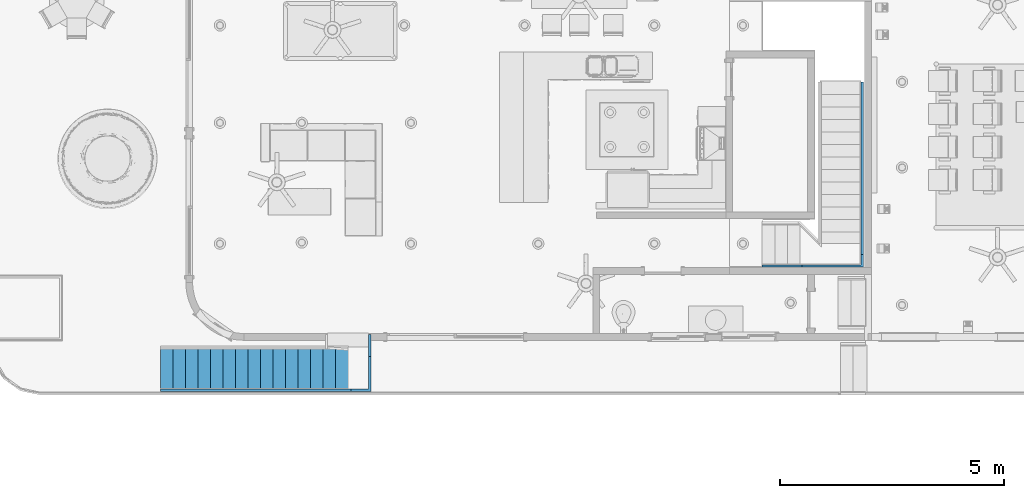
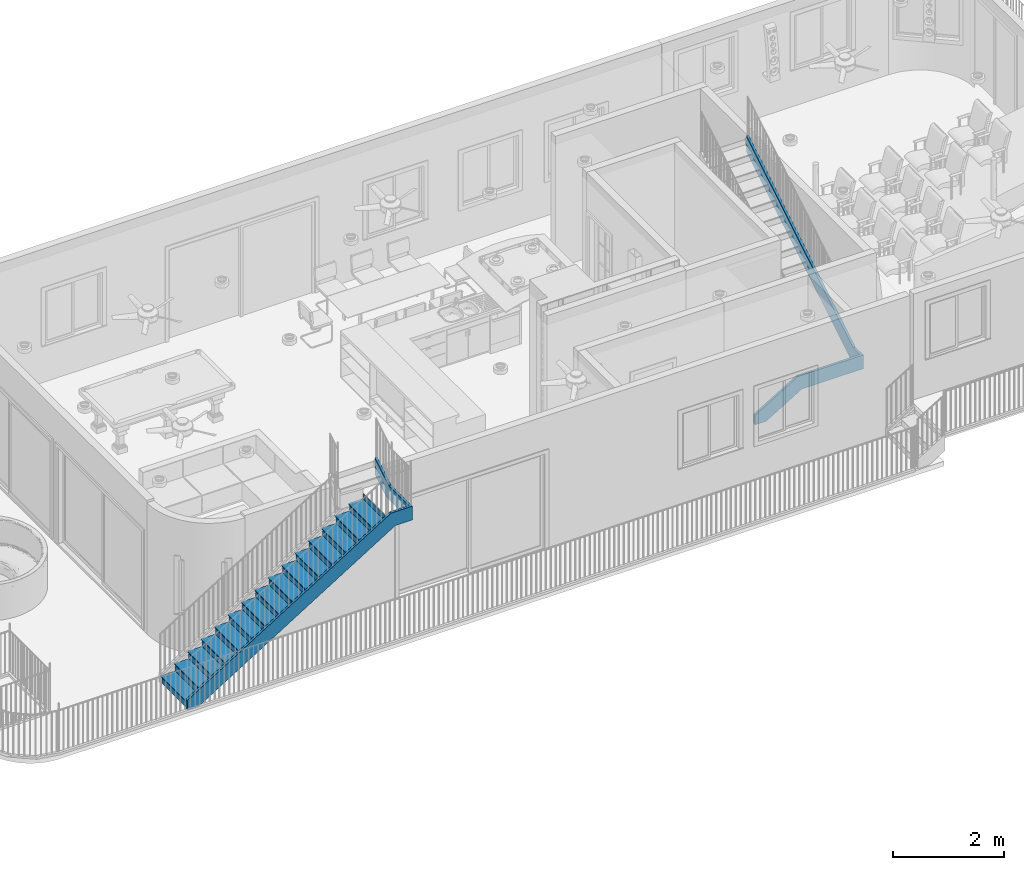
# One storey, part 7 of 21: 2 members, 1 stair flight, 2 elements without a shape of their own.
"""IFC2X3 building model written with IfcOpenShell, lengths in feet."""

from ifc_helpers import new_model, entity, si_unit, converted_unit, derived_unit, direction, origin, place, context, subcontext, project, spatial, faceted_brep, material, element, aggregate, save


model = new_model("IFC2X3")

# Units and contexts
model_context = context("Model", 3, precision=0.0001, world=origin(), true_north=direction((6.12303176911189e-17, 1.0)))
body_context = subcontext(model_context, "Body", "Model", "MODEL_VIEW")
ifc_project = project(units=[converted_unit("LENGTHUNIT", "FOOT", entity("IfcRatioMeasure", 0.3048), si_unit("LENGTHUNIT", "METRE"), dimensions=[1, 0, 0, 0, 0, 0, 0]), converted_unit("AREAUNIT", "SQUARE FOOT", entity("IfcRatioMeasure", 0.09290304), si_unit("AREAUNIT", "SQUARE_METRE"), dimensions=[2, 0, 0, 0, 0, 0, 0]), converted_unit("VOLUMEUNIT", "CUBIC FOOT", entity("IfcRatioMeasure", 0.028316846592), si_unit("VOLUMEUNIT", "CUBIC_METRE"), dimensions=[3, 0, 0, 0, 0, 0, 0]), converted_unit("PLANEANGLEUNIT", "DEGREE", entity("IfcRatioMeasure", 0.0174532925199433), si_unit("PLANEANGLEUNIT", "RADIAN"), dimensions=[0, 0, 0, 0, 0, 0, 0]), si_unit("MASSUNIT", "GRAM", prefix="KILO"), derived_unit("MASSDENSITYUNIT", [(si_unit("MASSUNIT", "GRAM", prefix="KILO"), 1), (si_unit("LENGTHUNIT", "METRE"), -3)]), si_unit("TIMEUNIT", "SECOND"), si_unit("FREQUENCYUNIT", "HERTZ"), si_unit("THERMODYNAMICTEMPERATUREUNIT", "DEGREE_CELSIUS"), derived_unit("THERMALTRANSMITTANCEUNIT", [(si_unit("MASSUNIT", "GRAM", prefix="KILO"), 1), (si_unit("THERMODYNAMICTEMPERATUREUNIT", "KELVIN"), -1), (si_unit("TIMEUNIT", "SECOND"), -3)]), derived_unit("VOLUMETRICFLOWRATEUNIT", [(si_unit("LENGTHUNIT", "METRE"), 3), (si_unit("TIMEUNIT", "SECOND"), -1)]), si_unit("ELECTRICCURRENTUNIT", "AMPERE"), si_unit("ELECTRICVOLTAGEUNIT", "VOLT"), si_unit("POWERUNIT", "WATT"), si_unit("FORCEUNIT", "NEWTON"), si_unit("ILLUMINANCEUNIT", "LUX"), si_unit("LUMINOUSFLUXUNIT", "LUMEN"), si_unit("LUMINOUSINTENSITYUNIT", "CANDELA"), derived_unit("USERDEFINED", [(si_unit("MASSUNIT", "GRAM", prefix="KILO"), -1), (si_unit("LENGTHUNIT", "METRE"), -2), (si_unit("TIMEUNIT", "SECOND"), 3), (si_unit("LUMINOUSFLUXUNIT", "LUMEN"), 1)]), derived_unit("LINEARVELOCITYUNIT", [(si_unit("LENGTHUNIT", "METRE"), 1), (si_unit("TIMEUNIT", "SECOND"), -1)]), si_unit("PRESSUREUNIT", "PASCAL"), derived_unit("USERDEFINED", [(si_unit("LENGTHUNIT", "METRE"), -2), (si_unit("MASSUNIT", "GRAM", prefix="KILO"), 1), (si_unit("TIMEUNIT", "SECOND"), -2)])], contexts=[model_context])

# Site, building, storey
site_placement = place(None, origin())
site = spatial("IfcSite", under=ifc_project, at=site_placement, Name="表面", CompositionType="ELEMENT")
building_placement = place(site_placement, origin())
building = spatial("IfcBuilding", under=site, at=building_placement, CompositionType="ELEMENT")
storey_placement = place(building_placement, origin())
storey = spatial("IfcBuildingStorey", under=building, at=storey_placement, Name="Level 1", CompositionType="ELEMENT", Elevation=0.0)

# Stair, member
stair_1_placement = place(storey_placement, origin())
stair_1 = element("IfcStair", 1, at=stair_1_placement, inside=storey, Name="楼梯:7\" max riser 11\" tread", ObjectType="楼梯:7\" max riser 11\" tread", ShapeType="NOTDEFINED")
ifc_material = material(Name="Metal - Aluminum")
member_1_placement = place(stair_1_placement, origin())
member_1 = element("IfcMember", 2, at=member_1_placement, material=ifc_material, Name="楼梯:7\" max riser 11\" tread:1", ObjectType="楼梯:7\" max riser 11\" tread", context=body_context, shape_type="Brep", body=[
    faceted_brep([(8.21508691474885, -8.04521611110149, 0.695913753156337), (8.21508691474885, -7.87854944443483, 0.695913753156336), (8.21508691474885, -7.87854944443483, 0.0), (8.21508691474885, -8.04521611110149, 0.0), (11.1459958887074, -8.04521611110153, 2.47222222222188), (11.1459958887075, -7.87854944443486, 2.47222222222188), (11.4253740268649, -7.87854944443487, 1.47222222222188), (8.99620736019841, -7.87854944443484, 0.0), (11.4253740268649, -8.04521611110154, 1.47222222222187), (8.99620736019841, -8.0452161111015, 0.0), (15.6317535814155, -8.04521611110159, 2.47222222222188), (15.4650869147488, -7.87854944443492, 2.47222222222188), (15.4650869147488, -7.87854944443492, 1.47222222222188), (15.6317535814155, -8.04521611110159, 1.47222222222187), (15.6317535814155, -7.11430713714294, 2.47222222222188), (15.4650869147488, -7.11430713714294, 2.47222222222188), (15.4650869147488, -6.8349289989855, 1.47222222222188), (15.6317535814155, -6.8349289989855, 1.47222222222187), (15.6317535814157, 5.5381172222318, 10.1403581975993), (15.6317535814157, 5.5381172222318, 8.97103811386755), (15.465086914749, 5.5381172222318, 8.97103811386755), (15.465086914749, 5.5381172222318, 10.1403581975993)], [[[0, 1, 2, 3]], [[1, 0, 4, 5]], [[2, 1, 5, 6, 7]], [[7, 6, 8, 9]], [[0, 3, 9, 8, 4]], [[5, 4, 10, 11]], [[6, 5, 11, 12]], [[8, 6, 12, 13]], [[4, 8, 13, 10]], [[11, 10, 14, 15]], [[12, 11, 15, 16]], [[13, 12, 16, 17]], [[10, 13, 17, 14]], [[18, 19, 20, 21]], [[15, 14, 18, 21]], [[16, 15, 21, 20]], [[17, 16, 20, 19]], [[14, 17, 19, 18]], [[3, 2, 7, 9]]]),
])
aggregate(stair_1, [member_1])

# Stair, member, stair flight
stair_2_placement = place(storey_placement, origin())
stair_2 = element("IfcStair", 3, at=stair_2_placement, inside=storey, Name="楼梯:7\" max riser 11\" tread", ObjectType="楼梯:7\" max riser 11\" tread", ShapeType="NOTDEFINED")
member_2_placement = place(stair_2_placement, origin())
member_2 = element("IfcMember", 4, at=member_2_placement, material=ifc_material, Name="楼梯:7\" max riser 11\" tread:1", ObjectType="楼梯:7\" max riser 11\" tread", context=body_context, shape_type="Brep", body=[
    faceted_brep([(-20.6369576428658, -16.9842729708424, 9.69444444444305), (-20.4702909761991, -17.1509396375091, 9.69444444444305), (-20.4702909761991, -14.605476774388, 9.69444444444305), (-20.6369576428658, -14.605476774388, 9.69444444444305), (-20.6369576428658, -16.9842729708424, 8.69444444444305), (-20.6369576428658, -14.3201564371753, 8.69444444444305), (-20.4702909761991, -17.1509396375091, 8.69444444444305), (-20.4702909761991, -14.3201564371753, 8.69444444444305), (-21.9456614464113, -16.9842729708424, 9.69444444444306), (-21.9456614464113, -17.1509396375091, 9.69444444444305), (-21.6603411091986, -16.9842729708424, 8.69444444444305), (-21.6603411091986, -17.1509396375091, 8.69444444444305), (-35.8869576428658, -17.1509396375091, 1.03394226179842), (-35.8869576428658, -16.9842729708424, 1.03394226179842), (-35.8869576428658, -16.9842729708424, 0.333333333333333), (-35.8869576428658, -17.1509396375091, 0.333333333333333), (-35.1196907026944, -16.9842729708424, 0.333333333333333), (-35.1196907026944, -17.1509396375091, 0.333333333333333), (-20.4702909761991, -12.9634396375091, 10.7144978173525), (-20.4702909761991, -12.9634396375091, 9.53725336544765), (-20.6369576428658, -12.9634396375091, 9.53725336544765), (-20.6369576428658, -12.9634396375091, 10.7144978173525)], [[[0, 1, 2, 3]], [[4, 0, 3, 5]], [[6, 4, 5, 7]], [[1, 6, 7, 2]], [[8, 9, 1, 0]], [[10, 8, 0, 4]], [[11, 10, 4, 6]], [[9, 11, 6, 1]], [[12, 13, 14, 15]], [[13, 12, 9, 8]], [[14, 13, 8, 10, 16]], [[16, 10, 11, 17]], [[12, 15, 17, 11, 9]], [[18, 19, 20, 21]], [[3, 2, 18, 21]], [[5, 3, 21, 20]], [[7, 5, 20, 19]], [[2, 7, 19, 18]], [[15, 14, 16, 17]]]),
])
stair_flight_placement = place(stair_2_placement, origin())
stair_flight = element("IfcStairFlight", 5, at=stair_flight_placement, material=ifc_material, Name="楼梯:7\" max riser 11\" tread:1", ObjectType="楼梯:7\" max riser 11\" tread", NumberOfRiser=16, NumberOfTreads=15, RiserHeight=0.569444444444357, TreadLength=0.916666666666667, context=body_context, shape_type="Brep", body=[
    faceted_brep([(-35.8869576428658, -13.9842729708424, 0.902777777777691), (-35.8869576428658, -16.9842729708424, 0.902777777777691), (-34.8869576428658, -16.9842729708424, 0.90277777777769), (-34.8869576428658, -13.9842729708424, 0.90277777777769), (-35.8036243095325, -13.9842729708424, 0.736111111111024), (-34.8869576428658, -13.9842729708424, 0.736111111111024), (-34.8869576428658, -16.9842729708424, 0.736111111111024), (-35.8036243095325, -16.9842729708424, 0.736111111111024), (-35.8869576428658, -16.9842729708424, 0.84027777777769), (-35.8869576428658, -13.9842729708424, 0.840277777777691), (-35.8036243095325, -16.9842729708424, 0.756944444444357), (-35.8036243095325, -13.9842729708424, 0.756944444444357)], [[[0, 1, 2, 3]], [[4, 5, 6, 7]], [[8, 1, 0, 9]], [[10, 8, 9, 11]], [[0, 3, 5, 4, 11, 9]], [[4, 7, 10, 11]], [[2, 1, 8, 10, 7, 6]], [[3, 2, 6, 5]]]),
    faceted_brep([(-34.9702909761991, -13.9842729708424, 1.47222222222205), (-34.9702909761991, -16.9842729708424, 1.47222222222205), (-33.9702909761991, -16.9842729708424, 1.47222222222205), (-33.9702909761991, -13.9842729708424, 1.47222222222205), (-34.8869576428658, -13.9842729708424, 1.30555555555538), (-33.9702909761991, -13.9842729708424, 1.30555555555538), (-33.9702909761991, -16.9842729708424, 1.30555555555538), (-34.8869576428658, -16.9842729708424, 1.30555555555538), (-34.9702909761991, -16.9842729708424, 1.40972222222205), (-34.8869576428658, -16.9842729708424, 1.32638888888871), (-34.8869576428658, -13.9842729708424, 1.32638888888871), (-34.9702909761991, -13.9842729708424, 1.40972222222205)], [[[0, 1, 2, 3]], [[4, 5, 6, 7]], [[2, 1, 8, 9, 7, 6]], [[0, 3, 5, 4, 10, 11]], [[4, 7, 9, 10]], [[3, 2, 6, 5]], [[8, 1, 0, 11]], [[9, 8, 11, 10]]]),
    faceted_brep([(-35.8036243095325, -16.9842729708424, 0.736111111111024), (-35.8036243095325, -16.9842729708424, 0.333333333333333), (-35.7827909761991, -16.9842729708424, 0.333333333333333), (-35.7827909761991, -16.9842729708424, 0.736111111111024), (-35.8036243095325, -13.9842729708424, 0.736111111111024), (-35.7827909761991, -13.9842729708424, 0.736111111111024), (-35.7827909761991, -13.9842729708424, 0.333333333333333), (-35.8036243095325, -13.9842729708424, 0.333333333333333)], [[[0, 1, 2, 3]], [[4, 5, 6, 7]], [[1, 0, 4, 7]], [[2, 1, 7, 6]], [[3, 2, 6, 5]], [[0, 3, 5, 4]]]),
    faceted_brep([(-34.8869576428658, -16.9842729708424, 1.30555555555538), (-34.8869576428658, -16.9842729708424, 0.736111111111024), (-34.8661243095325, -16.9842729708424, 0.736111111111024), (-34.8661243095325, -16.9842729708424, 1.30555555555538), (-34.8869576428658, -13.9842729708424, 1.30555555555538), (-34.8661243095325, -13.9842729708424, 1.30555555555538), (-34.8661243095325, -13.9842729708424, 0.736111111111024), (-34.8869576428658, -13.9842729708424, 0.736111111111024)], [[[0, 1, 2, 3]], [[4, 5, 6, 7]], [[1, 0, 4, 7]], [[2, 1, 7, 6]], [[3, 2, 6, 5]], [[0, 3, 5, 4]]]),
    faceted_brep([(-33.9702909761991, -16.9842729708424, 1.87499999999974), (-33.9702909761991, -16.9842729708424, 1.30555555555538), (-33.9494576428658, -16.9842729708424, 1.30555555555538), (-33.9494576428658, -16.9842729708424, 1.87499999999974), (-33.9702909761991, -13.9842729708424, 1.87499999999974), (-33.9494576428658, -13.9842729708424, 1.87499999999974), (-33.9494576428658, -13.9842729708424, 1.30555555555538), (-33.9702909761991, -13.9842729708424, 1.30555555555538)], [[[0, 1, 2, 3]], [[4, 5, 6, 7]], [[1, 0, 4, 7]], [[2, 1, 7, 6]], [[3, 2, 6, 5]], [[0, 3, 5, 4]]]),
    faceted_brep([(-34.0536243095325, -13.9842729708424, 2.04166666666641), (-34.0536243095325, -16.9842729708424, 2.04166666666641), (-33.0536243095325, -16.9842729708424, 2.04166666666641), (-33.0536243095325, -13.9842729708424, 2.04166666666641), (-33.9702909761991, -13.9842729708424, 1.87499999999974), (-33.0536243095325, -13.9842729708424, 1.87499999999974), (-33.0536243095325, -16.9842729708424, 1.87499999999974), (-33.9702909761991, -16.9842729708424, 1.87499999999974), (-33.9702909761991, -13.9842729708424, 1.89583333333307), (-34.0536243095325, -13.9842729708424, 1.97916666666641), (-33.9702909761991, -16.9842729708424, 1.89583333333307), (-34.0536243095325, -16.9842729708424, 1.97916666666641)], [[[0, 1, 2, 3]], [[4, 5, 6, 7]], [[0, 3, 5, 4, 8, 9]], [[4, 7, 10, 8]], [[2, 1, 11, 10, 7, 6]], [[3, 2, 6, 5]], [[11, 1, 0, 9]], [[10, 11, 9, 8]]]),
    faceted_brep([(-33.0536243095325, -16.9842729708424, 2.4444444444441), (-33.0536243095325, -16.9842729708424, 1.87499999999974), (-33.0327909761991, -16.9842729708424, 1.87499999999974), (-33.0327909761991, -16.9842729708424, 2.4444444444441), (-33.0536243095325, -13.9842729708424, 2.4444444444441), (-33.0327909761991, -13.9842729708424, 2.4444444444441), (-33.0327909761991, -13.9842729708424, 1.87499999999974), (-33.0536243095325, -13.9842729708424, 1.87499999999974)], [[[0, 1, 2, 3]], [[4, 5, 6, 7]], [[1, 0, 4, 7]], [[2, 1, 7, 6]], [[3, 2, 6, 5]], [[0, 3, 5, 4]]]),
    faceted_brep([(-33.1369576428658, -13.9842729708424, 2.61111111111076), (-33.1369576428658, -16.9842729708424, 2.61111111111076), (-32.1369576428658, -16.9842729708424, 2.61111111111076), (-32.1369576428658, -13.9842729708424, 2.61111111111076), (-33.0536243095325, -13.9842729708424, 2.4444444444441), (-32.1369576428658, -13.9842729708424, 2.4444444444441), (-32.1369576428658, -16.9842729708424, 2.4444444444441), (-33.0536243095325, -16.9842729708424, 2.4444444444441), (-33.0536243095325, -13.9842729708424, 2.46527777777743), (-33.1369576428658, -13.9842729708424, 2.54861111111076), (-33.0536243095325, -16.9842729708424, 2.46527777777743), (-33.1369576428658, -16.9842729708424, 2.54861111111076)], [[[0, 1, 2, 3]], [[4, 5, 6, 7]], [[0, 3, 5, 4, 8, 9]], [[4, 7, 10, 8]], [[2, 1, 11, 10, 7, 6]], [[3, 2, 6, 5]], [[11, 1, 0, 9]], [[10, 11, 9, 8]]]),
    faceted_brep([(-32.1369576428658, -16.9842729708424, 3.01388888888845), (-32.1369576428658, -16.9842729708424, 2.4444444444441), (-32.1161243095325, -16.9842729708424, 2.4444444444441), (-32.1161243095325, -16.9842729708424, 3.01388888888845), (-32.1369576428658, -13.9842729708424, 3.01388888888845), (-32.1161243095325, -13.9842729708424, 3.01388888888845), (-32.1161243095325, -13.9842729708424, 2.4444444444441), (-32.1369576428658, -13.9842729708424, 2.4444444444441)], [[[0, 1, 2, 3]], [[4, 5, 6, 7]], [[1, 0, 4, 7]], [[2, 1, 7, 6]], [[3, 2, 6, 5]], [[0, 3, 5, 4]]]),
    faceted_brep([(-32.2202909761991, -13.9842729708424, 3.18055555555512), (-32.2202909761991, -16.9842729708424, 3.18055555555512), (-31.2202909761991, -16.9842729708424, 3.18055555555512), (-31.2202909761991, -13.9842729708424, 3.18055555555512), (-32.1369576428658, -13.9842729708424, 3.01388888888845), (-31.2202909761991, -13.9842729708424, 3.01388888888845), (-31.2202909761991, -16.9842729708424, 3.01388888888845), (-32.1369576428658, -16.9842729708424, 3.01388888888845), (-32.1369576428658, -13.9842729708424, 3.03472222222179), (-32.2202909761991, -13.9842729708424, 3.11805555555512), (-32.1369576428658, -16.9842729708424, 3.03472222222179), (-32.2202909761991, -16.9842729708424, 3.11805555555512)], [[[0, 1, 2, 3]], [[4, 5, 6, 7]], [[0, 3, 5, 4, 8, 9]], [[4, 7, 10, 8]], [[2, 1, 11, 10, 7, 6]], [[3, 2, 6, 5]], [[11, 1, 0, 9]], [[10, 11, 9, 8]]]),
    faceted_brep([(-31.2202909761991, -16.9842729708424, 3.58333333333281), (-31.2202909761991, -16.9842729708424, 3.01388888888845), (-31.1994576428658, -16.9842729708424, 3.01388888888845), (-31.1994576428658, -16.9842729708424, 3.58333333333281), (-31.2202909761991, -13.9842729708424, 3.58333333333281), (-31.1994576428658, -13.9842729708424, 3.58333333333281), (-31.1994576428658, -13.9842729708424, 3.01388888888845), (-31.2202909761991, -13.9842729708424, 3.01388888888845)], [[[0, 1, 2, 3]], [[4, 5, 6, 7]], [[1, 0, 4, 7]], [[2, 1, 7, 6]], [[3, 2, 6, 5]], [[0, 3, 5, 4]]]),
    faceted_brep([(-31.3036243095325, -13.9842729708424, 3.74999999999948), (-31.3036243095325, -16.9842729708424, 3.74999999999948), (-30.3036243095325, -16.9842729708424, 3.74999999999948), (-30.3036243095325, -13.9842729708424, 3.74999999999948), (-31.2202909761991, -13.9842729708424, 3.58333333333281), (-30.3036243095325, -13.9842729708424, 3.58333333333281), (-30.3036243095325, -16.9842729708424, 3.58333333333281), (-31.2202909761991, -16.9842729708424, 3.58333333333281), (-31.2202909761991, -13.9842729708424, 3.60416666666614), (-31.3036243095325, -13.9842729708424, 3.68749999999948), (-31.2202909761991, -16.9842729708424, 3.60416666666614), (-31.3036243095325, -16.9842729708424, 3.68749999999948)], [[[0, 1, 2, 3]], [[4, 5, 6, 7]], [[0, 3, 5, 4, 8, 9]], [[4, 7, 10, 8]], [[2, 1, 11, 10, 7, 6]], [[3, 2, 6, 5]], [[11, 1, 0, 9]], [[10, 11, 9, 8]]]),
    faceted_brep([(-30.3036243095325, -16.9842729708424, 4.15277777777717), (-30.3036243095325, -16.9842729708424, 3.58333333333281), (-30.2827909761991, -16.9842729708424, 3.58333333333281), (-30.2827909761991, -16.9842729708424, 4.15277777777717), (-30.3036243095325, -13.9842729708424, 4.15277777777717), (-30.2827909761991, -13.9842729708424, 4.15277777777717), (-30.2827909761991, -13.9842729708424, 3.58333333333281), (-30.3036243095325, -13.9842729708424, 3.58333333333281)], [[[0, 1, 2, 3]], [[4, 5, 6, 7]], [[1, 0, 4, 7]], [[2, 1, 7, 6]], [[3, 2, 6, 5]], [[0, 3, 5, 4]]]),
    faceted_brep([(-30.3869576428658, -13.9842729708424, 4.31944444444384), (-30.3869576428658, -16.9842729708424, 4.31944444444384), (-29.3869576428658, -16.9842729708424, 4.31944444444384), (-29.3869576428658, -13.9842729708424, 4.31944444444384), (-30.3036243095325, -13.9842729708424, 4.15277777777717), (-29.3869576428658, -13.9842729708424, 4.15277777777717), (-29.3869576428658, -16.9842729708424, 4.15277777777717), (-30.3036243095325, -16.9842729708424, 4.15277777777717), (-30.3036243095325, -13.9842729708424, 4.1736111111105), (-30.3869576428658, -13.9842729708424, 4.25694444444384), (-30.3036243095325, -16.9842729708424, 4.1736111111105), (-30.3869576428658, -16.9842729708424, 4.25694444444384)], [[[0, 1, 2, 3]], [[4, 5, 6, 7]], [[0, 3, 5, 4, 8, 9]], [[4, 7, 10, 8]], [[2, 1, 11, 10, 7, 6]], [[3, 2, 6, 5]], [[11, 1, 0, 9]], [[10, 11, 9, 8]]]),
    faceted_brep([(-29.3869576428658, -16.9842729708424, 4.72222222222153), (-29.3869576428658, -16.9842729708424, 4.15277777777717), (-29.3661243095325, -16.9842729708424, 4.15277777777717), (-29.3661243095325, -16.9842729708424, 4.72222222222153), (-29.3869576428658, -13.9842729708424, 4.72222222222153), (-29.3661243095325, -13.9842729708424, 4.72222222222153), (-29.3661243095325, -13.9842729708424, 4.15277777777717), (-29.3869576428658, -13.9842729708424, 4.15277777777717)], [[[0, 1, 2, 3]], [[4, 5, 6, 7]], [[1, 0, 4, 7]], [[2, 1, 7, 6]], [[3, 2, 6, 5]], [[0, 3, 5, 4]]]),
    faceted_brep([(-29.4702909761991, -13.9842729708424, 4.88888888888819), (-29.4702909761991, -16.9842729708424, 4.88888888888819), (-28.4702909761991, -16.9842729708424, 4.88888888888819), (-28.4702909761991, -13.9842729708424, 4.88888888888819), (-29.3869576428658, -13.9842729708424, 4.72222222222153), (-28.4702909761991, -13.9842729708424, 4.72222222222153), (-28.4702909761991, -16.9842729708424, 4.72222222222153), (-29.3869576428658, -16.9842729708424, 4.72222222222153), (-29.3869576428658, -13.9842729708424, 4.74305555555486), (-29.4702909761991, -13.9842729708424, 4.82638888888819), (-29.3869576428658, -16.9842729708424, 4.74305555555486), (-29.4702909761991, -16.9842729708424, 4.82638888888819)], [[[0, 1, 2, 3]], [[4, 5, 6, 7]], [[0, 3, 5, 4, 8, 9]], [[4, 7, 10, 8]], [[2, 1, 11, 10, 7, 6]], [[3, 2, 6, 5]], [[11, 1, 0, 9]], [[10, 11, 9, 8]]]),
    faceted_brep([(-28.4702909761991, -16.9842729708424, 5.29166666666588), (-28.4702909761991, -16.9842729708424, 4.72222222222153), (-28.4494576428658, -16.9842729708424, 4.72222222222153), (-28.4494576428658, -16.9842729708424, 5.29166666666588), (-28.4702909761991, -13.9842729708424, 5.29166666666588), (-28.4494576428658, -13.9842729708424, 5.29166666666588), (-28.4494576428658, -13.9842729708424, 4.72222222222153), (-28.4702909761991, -13.9842729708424, 4.72222222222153)], [[[0, 1, 2, 3]], [[4, 5, 6, 7]], [[1, 0, 4, 7]], [[2, 1, 7, 6]], [[3, 2, 6, 5]], [[0, 3, 5, 4]]]),
    faceted_brep([(-28.5536243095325, -13.9842729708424, 5.45833333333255), (-28.5536243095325, -16.9842729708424, 5.45833333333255), (-27.5536243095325, -16.9842729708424, 5.45833333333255), (-27.5536243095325, -13.9842729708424, 5.45833333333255), (-28.4702909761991, -13.9842729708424, 5.29166666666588), (-27.5536243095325, -13.9842729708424, 5.29166666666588), (-27.5536243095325, -16.9842729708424, 5.29166666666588), (-28.4702909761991, -16.9842729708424, 5.29166666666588), (-28.4702909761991, -13.9842729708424, 5.31249999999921), (-28.5536243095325, -13.9842729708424, 5.39583333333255), (-28.4702909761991, -16.9842729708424, 5.31249999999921), (-28.5536243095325, -16.9842729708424, 5.39583333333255)], [[[0, 1, 2, 3]], [[4, 5, 6, 7]], [[0, 3, 5, 4, 8, 9]], [[4, 7, 10, 8]], [[2, 1, 11, 10, 7, 6]], [[3, 2, 6, 5]], [[11, 1, 0, 9]], [[10, 11, 9, 8]]]),
    faceted_brep([(-27.5536243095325, -16.9842729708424, 5.86111111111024), (-27.5536243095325, -16.9842729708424, 5.29166666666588), (-27.5327909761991, -16.9842729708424, 5.29166666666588), (-27.5327909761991, -16.9842729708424, 5.86111111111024), (-27.5536243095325, -13.9842729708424, 5.86111111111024), (-27.5327909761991, -13.9842729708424, 5.86111111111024), (-27.5327909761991, -13.9842729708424, 5.29166666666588), (-27.5536243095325, -13.9842729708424, 5.29166666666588)], [[[0, 1, 2, 3]], [[4, 5, 6, 7]], [[1, 0, 4, 7]], [[2, 1, 7, 6]], [[3, 2, 6, 5]], [[0, 3, 5, 4]]]),
    faceted_brep([(-27.6369576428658, -13.9842729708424, 6.02777777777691), (-27.6369576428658, -16.9842729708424, 6.02777777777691), (-26.6369576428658, -16.9842729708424, 6.02777777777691), (-26.6369576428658, -13.9842729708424, 6.02777777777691), (-27.5536243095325, -13.9842729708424, 5.86111111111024), (-26.6369576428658, -13.9842729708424, 5.86111111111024), (-26.6369576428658, -16.9842729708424, 5.86111111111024), (-27.5536243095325, -16.9842729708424, 5.86111111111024), (-27.5536243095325, -13.9842729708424, 5.88194444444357), (-27.6369576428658, -13.9842729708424, 5.96527777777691), (-27.5536243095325, -16.9842729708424, 5.88194444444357), (-27.6369576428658, -16.9842729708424, 5.96527777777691)], [[[0, 1, 2, 3]], [[4, 5, 6, 7]], [[0, 3, 5, 4, 8, 9]], [[4, 7, 10, 8]], [[2, 1, 11, 10, 7, 6]], [[3, 2, 6, 5]], [[11, 1, 0, 9]], [[10, 11, 9, 8]]]),
    faceted_brep([(-26.6369576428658, -16.9842729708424, 6.4305555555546), (-26.6369576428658, -16.9842729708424, 5.86111111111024), (-26.6161243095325, -16.9842729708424, 5.86111111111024), (-26.6161243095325, -16.9842729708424, 6.4305555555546), (-26.6369576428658, -13.9842729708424, 6.4305555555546), (-26.6161243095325, -13.9842729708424, 6.4305555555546), (-26.6161243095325, -13.9842729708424, 5.86111111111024), (-26.6369576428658, -13.9842729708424, 5.86111111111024)], [[[0, 1, 2, 3]], [[4, 5, 6, 7]], [[1, 0, 4, 7]], [[2, 1, 7, 6]], [[3, 2, 6, 5]], [[0, 3, 5, 4]]]),
    faceted_brep([(-26.7202909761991, -13.9842729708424, 6.59722222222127), (-26.7202909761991, -16.9842729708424, 6.59722222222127), (-25.7202909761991, -16.9842729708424, 6.59722222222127), (-25.7202909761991, -13.9842729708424, 6.59722222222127), (-26.6369576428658, -13.9842729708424, 6.4305555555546), (-25.7202909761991, -13.9842729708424, 6.4305555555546), (-25.7202909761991, -16.9842729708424, 6.4305555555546), (-26.6369576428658, -16.9842729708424, 6.4305555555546), (-26.6369576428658, -13.9842729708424, 6.45138888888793), (-26.7202909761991, -13.9842729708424, 6.53472222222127), (-26.6369576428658, -16.9842729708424, 6.45138888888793), (-26.7202909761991, -16.9842729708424, 6.53472222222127)], [[[0, 1, 2, 3]], [[4, 5, 6, 7]], [[0, 3, 5, 4, 8, 9]], [[4, 7, 10, 8]], [[2, 1, 11, 10, 7, 6]], [[3, 2, 6, 5]], [[11, 1, 0, 9]], [[10, 11, 9, 8]]]),
    faceted_brep([(-25.7202909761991, -16.9842729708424, 7.0), (-25.7202909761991, -16.9842729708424, 6.4305555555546), (-25.6994576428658, -16.9842729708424, 6.4305555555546), (-25.6994576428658, -16.9842729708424, 7.0), (-25.7202909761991, -13.9842729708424, 7.0), (-25.6994576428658, -13.9842729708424, 7.0), (-25.6994576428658, -13.9842729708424, 6.4305555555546), (-25.7202909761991, -13.9842729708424, 6.4305555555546)], [[[0, 1, 2, 3]], [[4, 5, 6, 7]], [[1, 0, 4, 7]], [[2, 1, 7, 6]], [[3, 2, 6, 5]], [[0, 3, 5, 4]]]),
    faceted_brep([(-25.8036243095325, -13.9842729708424, 7.16666666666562), (-25.8036243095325, -16.9842729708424, 7.16666666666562), (-24.8036243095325, -16.9842729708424, 7.16666666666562), (-24.8036243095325, -13.9842729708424, 7.16666666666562), (-25.7202909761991, -13.9842729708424, 7.0), (-24.8036243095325, -13.9842729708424, 7.0), (-24.8036243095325, -16.9842729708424, 7.0), (-25.7202909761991, -16.9842729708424, 7.0), (-25.7202909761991, -13.9842729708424, 7.02083333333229), (-25.8036243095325, -13.9842729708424, 7.10416666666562), (-25.7202909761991, -16.9842729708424, 7.02083333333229), (-25.8036243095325, -16.9842729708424, 7.10416666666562)], [[[0, 1, 2, 3]], [[4, 5, 6, 7]], [[0, 3, 5, 4, 8, 9]], [[4, 7, 10, 8]], [[2, 1, 11, 10, 7, 6]], [[3, 2, 6, 5]], [[11, 1, 0, 9]], [[10, 11, 9, 8]]]),
    faceted_brep([(-24.8036243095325, -16.9842729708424, 7.56944444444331), (-24.8036243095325, -16.9842729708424, 7.0), (-24.7827909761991, -16.9842729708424, 7.0), (-24.7827909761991, -16.9842729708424, 7.56944444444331), (-24.8036243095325, -13.9842729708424, 7.56944444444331), (-24.7827909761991, -13.9842729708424, 7.56944444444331), (-24.7827909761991, -13.9842729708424, 7.0), (-24.8036243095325, -13.9842729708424, 7.0)], [[[0, 1, 2, 3]], [[4, 5, 6, 7]], [[1, 0, 4, 7]], [[2, 1, 7, 6]], [[3, 2, 6, 5]], [[0, 3, 5, 4]]]),
    faceted_brep([(-24.8869576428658, -13.9842729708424, 7.73611111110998), (-24.8869576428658, -16.9842729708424, 7.73611111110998), (-23.8869576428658, -16.9842729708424, 7.73611111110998), (-23.8869576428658, -13.9842729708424, 7.73611111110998), (-24.8036243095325, -13.9842729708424, 7.56944444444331), (-23.8869576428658, -13.9842729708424, 7.56944444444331), (-23.8869576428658, -16.9842729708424, 7.56944444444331), (-24.8036243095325, -16.9842729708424, 7.56944444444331), (-24.8036243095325, -13.9842729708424, 7.59027777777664), (-24.8869576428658, -13.9842729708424, 7.67361111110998), (-24.8036243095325, -16.9842729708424, 7.59027777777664), (-24.8869576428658, -16.9842729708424, 7.67361111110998)], [[[0, 1, 2, 3]], [[4, 5, 6, 7]], [[0, 3, 5, 4, 8, 9]], [[4, 7, 10, 8]], [[2, 1, 11, 10, 7, 6]], [[3, 2, 6, 5]], [[11, 1, 0, 9]], [[10, 11, 9, 8]]]),
    faceted_brep([(-23.8869576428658, -16.9842729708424, 8.13888888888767), (-23.8869576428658, -16.9842729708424, 7.56944444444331), (-23.8661243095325, -16.9842729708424, 7.56944444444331), (-23.8661243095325, -16.9842729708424, 8.13888888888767), (-23.8869576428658, -13.9842729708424, 8.13888888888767), (-23.8661243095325, -13.9842729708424, 8.13888888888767), (-23.8661243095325, -13.9842729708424, 7.56944444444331), (-23.8869576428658, -13.9842729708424, 7.56944444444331)], [[[0, 1, 2, 3]], [[4, 5, 6, 7]], [[1, 0, 4, 7]], [[2, 1, 7, 6]], [[3, 2, 6, 5]], [[0, 3, 5, 4]]]),
    faceted_brep([(-23.9702909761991, -13.9842729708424, 8.30555555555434), (-23.9702909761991, -16.9842729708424, 8.30555555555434), (-22.9702909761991, -16.9842729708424, 8.30555555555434), (-22.9702909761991, -13.9842729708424, 8.30555555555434), (-23.8869576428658, -13.9842729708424, 8.13888888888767), (-22.9702909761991, -13.9842729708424, 8.13888888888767), (-22.9702909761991, -16.9842729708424, 8.13888888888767), (-23.8869576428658, -16.9842729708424, 8.13888888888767), (-23.8869576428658, -13.9842729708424, 8.159722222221), (-23.9702909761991, -13.9842729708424, 8.24305555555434), (-23.8869576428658, -16.9842729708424, 8.159722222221), (-23.9702909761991, -16.9842729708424, 8.24305555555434)], [[[0, 1, 2, 3]], [[4, 5, 6, 7]], [[0, 3, 5, 4, 8, 9]], [[4, 7, 10, 8]], [[2, 1, 11, 10, 7, 6]], [[3, 2, 6, 5]], [[11, 1, 0, 9]], [[10, 11, 9, 8]]]),
    faceted_brep([(-22.9702909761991, -16.9842729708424, 8.70833333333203), (-22.9702909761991, -16.9842729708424, 8.13888888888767), (-22.9494576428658, -16.9842729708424, 8.13888888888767), (-22.9494576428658, -16.9842729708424, 8.70833333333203), (-22.9702909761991, -13.9842729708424, 8.70833333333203), (-22.9494576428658, -13.9842729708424, 8.70833333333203), (-22.9494576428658, -13.9842729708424, 8.13888888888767), (-22.9702909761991, -13.9842729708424, 8.13888888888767)], [[[0, 1, 2, 3]], [[4, 5, 6, 7]], [[1, 0, 4, 7]], [[2, 1, 7, 6]], [[3, 2, 6, 5]], [[0, 3, 5, 4]]]),
    faceted_brep([(-23.0536243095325, -13.9842729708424, 8.8749999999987), (-23.0536243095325, -16.9842729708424, 8.8749999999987), (-22.1369576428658, -16.9842729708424, 8.8749999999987), (-22.0536243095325, -16.9842729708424, 8.8749999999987), (-22.0536243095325, -13.9842729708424, 8.8749999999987), (-22.9702909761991, -13.9842729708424, 8.70833333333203), (-22.0536243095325, -13.9842729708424, 8.70833333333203), (-22.0536243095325, -16.9842729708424, 8.70833333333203), (-22.1369576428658, -16.9842729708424, 8.70833333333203), (-22.9702909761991, -16.9842729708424, 8.70833333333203), (-22.9702909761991, -13.9842729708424, 8.72916666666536), (-23.0536243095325, -13.9842729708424, 8.8124999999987), (-22.9702909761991, -16.9842729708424, 8.72916666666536), (-23.0536243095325, -16.9842729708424, 8.8124999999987)], [[[0, 1, 2, 3, 4]], [[5, 6, 7, 8, 9]], [[0, 4, 6, 5, 10, 11]], [[5, 9, 12, 10]], [[2, 1, 13, 12, 9, 8]], [[3, 2, 8, 7]], [[4, 3, 7, 6]], [[13, 1, 0, 11]], [[12, 13, 11, 10]]]),
    faceted_brep([(-22.0536243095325, -16.9842729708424, 9.27777777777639), (-22.0536243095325, -16.9842729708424, 8.70833333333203), (-22.0327909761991, -16.9842729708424, 8.70833333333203), (-22.0327909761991, -16.9842729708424, 9.27777777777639), (-22.0536243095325, -13.9900600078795, 9.27777777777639), (-22.0327909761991, -13.9915067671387, 9.27777777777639), (-22.0327909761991, -13.9915067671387, 8.70833333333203), (-22.0536243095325, -13.9900600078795, 8.70833333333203)], [[[0, 1, 2, 3]], [[4, 5, 6, 7]], [[1, 0, 4, 7]], [[2, 1, 7, 6]], [[3, 2, 6, 5]], [[0, 3, 5, 4]]]),
])
aggregate(stair_2, [stair_flight, member_2])

save(model, "model.ifc")
